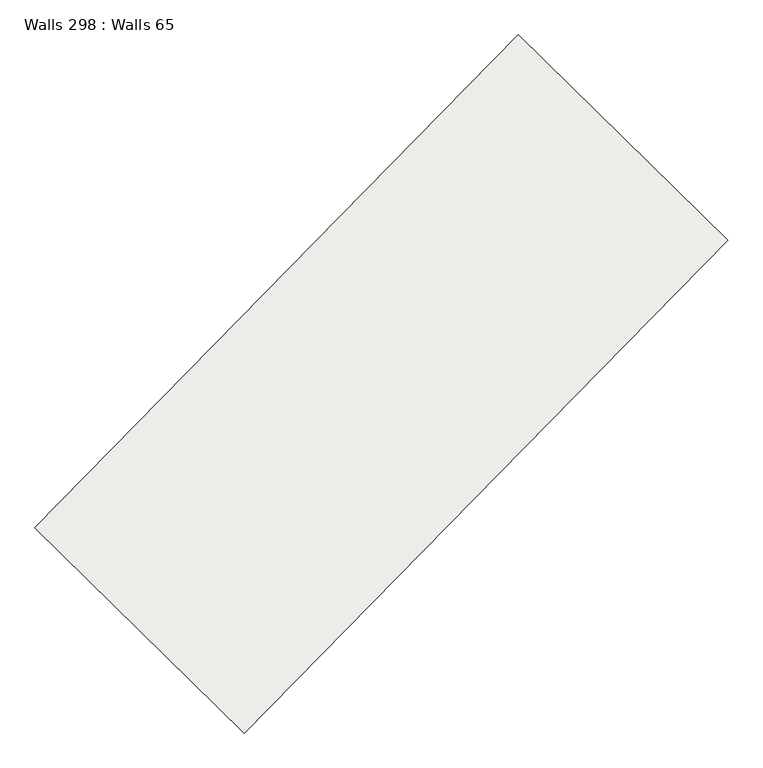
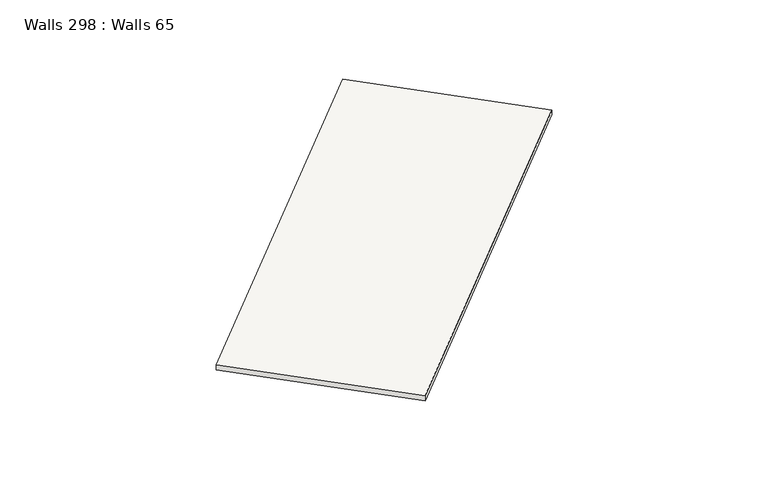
"""IFC4 building model written with IfcOpenShell, lengths in millimetres: slab geometry, Walls 298 : Walls 65."""

import ifcopenshell
import ifcopenshell.guid

model = None  # the IFC model being written
_history = None  # IfcOwnerHistory: only IFC2X3 demands one
_inside = {}  # id of a spatial element -> (the spatial element, [elements in it])
_under = {}  # id of a project, library or spatial element -> (it, [spatial elements below it])
_declared = {}  # id of a project -> (the project, [libraries it declares])
_typed = {}  # id of a type object -> (the type object, [elements of that type])
_made_of = {}  # id of a material, layer set ... -> (it, [elements and type objects made of it])


def new_model(schema):
    """Start an empty IFC model of exactly this schema.

    Asked for "IFC4X3", IfcOpenShell would pick the latest addendum, in which some entities
    have other attributes; the version numbers below select the first issue.
    IFC2X3 requires an IfcOwnerHistory on every rooted entity: one is made here for all.
    """
    global model, _history
    if schema == "IFC4X3":
        model = ifcopenshell.file(schema_version=(4, 3, 0, 0))
    else:
        model = ifcopenshell.file(schema=schema)
    _inside.clear()
    _under.clear()
    _declared.clear()
    _typed.clear()
    _made_of.clear()
    _history = None
    if model.schema == "IFC2X3":
        org = make("IfcOrganization", Name="unknown")
        user = make(
            "IfcPersonAndOrganization",
            ThePerson=make("IfcPerson", FamilyName="unknown"),
            TheOrganization=org,
        )
        app = make(
            "IfcApplication",
            ApplicationDeveloper=org,
            Version="unknown",
            ApplicationFullName="unknown",
            ApplicationIdentifier="unknown",
        )
        _history = make(
            "IfcOwnerHistory",
            OwningUser=user,
            OwningApplication=app,
            ChangeAction="ADDED",
            CreationDate=0,
        )
    return model


def make(cls, **values):
    """One entity of the class cls with the attributes given. An attribute that is None is left unset."""
    return model.create_entity(
        cls, **{name: value for name, value in values.items() if value is not None}
    )


def rooted(cls, **values):
    """An entity with a GlobalId (a new one), such as an element, a storey or a relation."""
    return make(cls, GlobalId=ifcopenshell.guid.new(), OwnerHistory=_history, **values)


def si_unit(unit_type, name, prefix=None):
    """IfcSIUnit, for example si_unit("LENGTHUNIT", "METRE", prefix="MILLI")."""
    return make("IfcSIUnit", UnitType=unit_type, Prefix=prefix, Name=name)


def assignment(units):
    """IfcUnitAssignment: the units of a project."""
    return None if units is None else make("IfcUnitAssignment", Units=units)


def point(xyz):
    """IfcCartesianPoint."""
    return None if xyz is None else make("IfcCartesianPoint", Coordinates=xyz)


def direction(xyz):
    """IfcDirection."""
    return None if xyz is None else make("IfcDirection", DirectionRatios=xyz)


def frame(location, z_axis=None, x_axis=None):
    """IfcAxis2Placement3D, a coordinate frame: its origin and axes. An axis left out is left unset."""
    return make(
        "IfcAxis2Placement3D",
        Location=point(location),
        Axis=direction(z_axis),
        RefDirection=direction(x_axis),
    )


def origin():
    """The frame at (0, 0, 0) with its axes left unset."""
    return frame((0.0, 0.0, 0.0))


def place(relative_to, where):
    """IfcLocalPlacement: puts the frame where relative to a parent placement (None: the world)."""
    return make(
        "IfcLocalPlacement", PlacementRelTo=relative_to, RelativePlacement=where
    )


def context(
    kind, dimensions, precision=None, world=None, true_north=None, identifier=None
):
    """IfcGeometricRepresentationContext, for example the 3D "Model" context."""
    return make(
        "IfcGeometricRepresentationContext",
        ContextIdentifier=identifier,
        ContextType=kind,
        CoordinateSpaceDimension=dimensions,
        Precision=precision,
        WorldCoordinateSystem=world,
        TrueNorth=true_north,
    )


def project(units=None, contexts=None):
    """IfcProject with its units and contexts."""
    return rooted(
        "IfcProject",
        Name="project",
        RepresentationContexts=contexts,
        UnitsInContext=assignment(units),
    )


def spatial(cls, under=None, at=None, **own):
    """A site, building, storey or space (cls), placed at a placement, below another one or the project."""
    s = rooted(cls, ObjectPlacement=at, **own)
    if under is not None:
        _under.setdefault(under.id(), (under, []))[1].append(s)
    return s


def polyline(points):
    """IfcPolyline through the points."""
    return make("IfcPolyline", Points=[point(p) for p in points])


def outline(outer, holes=None, kind="AREA"):
    """IfcArbitraryClosedProfileDef: a profile drawn as a closed curve; with holes, ...WithVoids."""
    if holes is None:
        return make("IfcArbitraryClosedProfileDef", ProfileType=kind, OuterCurve=outer)
    return make(
        "IfcArbitraryProfileDefWithVoids",
        ProfileType=kind,
        OuterCurve=outer,
        InnerCurves=holes,
    )


def extrude(swept, where, along, depth):
    """IfcExtrudedAreaSolid: the profile swept, set in the frame where, extruded along a direction by depth."""
    return make(
        "IfcExtrudedAreaSolid",
        SweptArea=swept,
        Position=where,
        ExtrudedDirection=direction(along),
        Depth=depth,
    )


def shape(context_of_items, identifier, shape_type, items):
    """IfcShapeRepresentation: the items that make up one representation, for example the "Body"."""
    return make(
        "IfcShapeRepresentation",
        ContextOfItems=context_of_items,
        RepresentationIdentifier=identifier,
        RepresentationType=shape_type,
        Items=items,
    )


def source(mapping_origin, context_of_items, identifier, shape_type, items):
    """IfcRepresentationMap: a shape defined once, which mapped items show again and again."""
    return make(
        "IfcRepresentationMap",
        MappingOrigin=mapping_origin,
        MappedRepresentation=shape(context_of_items, identifier, shape_type, items),
    )


def transform(
    local_origin,
    x_axis=None,
    y_axis=None,
    z_axis=None,
    scale=None,
    scale2=None,
    scale3=None,
    uniform=True,
):
    """IfcCartesianTransformationOperator3D, or its non-uniform kind. x_axis, y_axis, z_axis: its Axis1, 2, 3."""
    if uniform:
        return make(
            "IfcCartesianTransformationOperator3D",
            Axis1=direction(x_axis),
            Axis2=direction(y_axis),
            LocalOrigin=point(local_origin),
            Scale=scale,
            Axis3=direction(z_axis),
        )
    return make(
        "IfcCartesianTransformationOperator3DnonUniform",
        Axis1=direction(x_axis),
        Axis2=direction(y_axis),
        LocalOrigin=point(local_origin),
        Scale=scale,
        Axis3=direction(z_axis),
        Scale2=scale2,
        Scale3=scale3,
    )


def mapped(mapping_source, mapping_target):
    """IfcMappedItem: shows the shape of a source again, moved by a transform."""
    return make(
        "IfcMappedItem", MappingSource=mapping_source, MappingTarget=mapping_target
    )


def made_of(thing, what):
    """Note that an element or type object is made of a material, layer set ...; save() writes the relation."""
    if what is not None:
        _made_of.setdefault(what.id(), (what, []))[1].append(thing)
    return thing


def element(
    cls,
    number,
    at=None,
    inside=None,
    cuts=None,
    type_object=None,
    material=None,
    context=None,
    identifier="Body",
    shape_type=None,
    held_by="IfcProductDefinitionShape",
    body=None,
    shapes=None,
    **own,
):
    """One element of the class cls, such as IfcWall. Its Tag is "e" and its number.

    at: its placement. inside: the storey or other place that contains it. cuts: it is an
    opening in that element (IfcRelVoidsElement). A single representation is given by context,
    identifier, shape_type and body (its items); several are given by shapes. held_by: the class
    of the entity that holds the representations. save() writes the other relations.
    """
    e = rooted(cls, Tag="e%d" % number, ObjectPlacement=at, **own)
    if body is not None:
        shapes = [shape(context, identifier, shape_type, body)]
    if shapes is not None:
        e.Representation = make(held_by, Representations=shapes)
    if inside is not None:
        _inside.setdefault(inside.id(), (inside, []))[1].append(e)
    if cuts is not None:
        rooted(
            "IfcRelVoidsElement", RelatingBuildingElement=cuts, RelatedOpeningElement=e
        )
    if type_object is not None:
        _typed.setdefault(type_object.id(), (type_object, []))[1].append(e)
    return made_of(e, material)


def aggregate(whole, parts):
    """IfcRelAggregates: a whole, such as a stair, and the parts it consists of."""
    return rooted("IfcRelAggregates", RelatingObject=whole, RelatedObjects=parts)


def save(model, path):
    """Write the relations noted so far, then the file.

    IfcRelAggregates (storeys below a building ...), IfcRelContainedInSpatialStructure (elements
    in a storey), IfcRelDefinesByType, IfcRelAssociatesMaterial and IfcRelDeclares: one each for
    every whole, place, type object, material and project.
    """
    for whole, parts in _under.values():
        aggregate(whole, parts)
    for where, things in _inside.values():
        rooted(
            "IfcRelContainedInSpatialStructure",
            RelatedElements=things,
            RelatingStructure=where,
        )
    for kind, things in _typed.values():
        rooted("IfcRelDefinesByType", RelatedObjects=things, RelatingType=kind)
    for what, things in _made_of.values():
        rooted("IfcRelAssociatesMaterial", RelatedObjects=things, RelatingMaterial=what)
    for by, libraries in _declared.values():
        rooted("IfcRelDeclares", RelatingContext=by, RelatedDefinitions=libraries)
    model.write(path)


def walls_298_walls_65_c133b5fb(model_context):
    return source(origin(), model_context, "Body", "SweptSolid", [
        extrude(outline(polyline([(-50.0, 0.0), (50.0, 0.0), (-40.0, -8699.9999996), (-140.0, -8699.9999996), (-50.0, 0.0)])), frame((12237.0218779, -146875.1399628, 638220.0), z_axis=(-0.7137361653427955, 0.7004146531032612, 0.0), x_axis=(0.0, 0.0, 1.0)), (0.0, 0.0, 1.0), 3699.999995),
    ])


if __name__ == "__main__":
    model = new_model("IFC4")
    model_context = context("Model", 3, world=origin())
    ifc_project = project(units=[si_unit("LENGTHUNIT", "METRE", prefix="MILLI")], contexts=[model_context])
    site = spatial("IfcSite", under=ifc_project)
    building = spatial("IfcBuilding", under=site)
    placement = place(None, origin())
    walls_298_walls_65_shape = walls_298_walls_65_c133b5fb(model_context)
    element("IfcSlab", 1, ObjectType="Walls 298 : Walls 65", at=placement, inside=building, context=model_context, shape_type="MappedRepresentation", body=[
        mapped(walls_298_walls_65_shape, transform((0.0, 0.0, 0.0), x_axis=(1.0, 0.0, 0.0), y_axis=(0.0, 1.0, 0.0), z_axis=(0.0, 0.0, 1.0))),
    ])
    save(model, "model.ifc")
